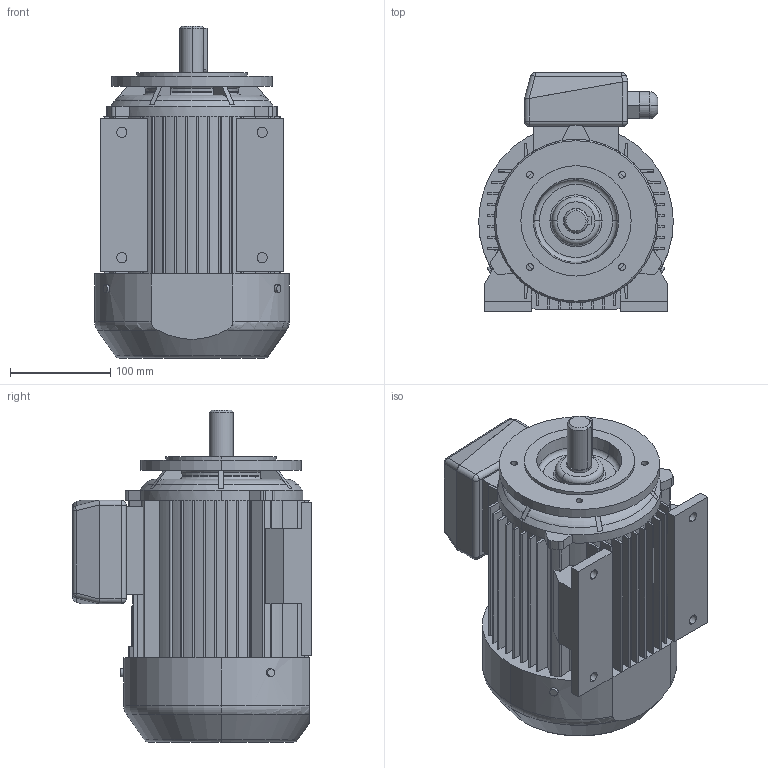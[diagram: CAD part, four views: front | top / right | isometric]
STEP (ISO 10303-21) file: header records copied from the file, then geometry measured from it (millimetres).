
FILE_DESCRIPTION (( 'STEP AP203' ), '1' );
FILE_NAME ('3SIEL90L2-B34-C1.STEP', '2016-02-08T11:56:16', ( 'Indukta' ), ( 'Celma Indukta S.A.' ), 'SwSTEP 2.0', 'SolidWorks 2003064', '' );
FILE_SCHEMA (( 'CONFIG_CONTROL_DESIGN' ));
Length unit declared in the file: millimetre
Products named in the file (1): 3SIEL90L2-B34-C1
Bounding box: 194 x 238 x 331 mm (x, y, z)
Volume: 7302676.6 mm3; surface area: 420456.4 mm2
Topology: 1 solids, 1 shells, 639 faces, 1738 edges, 1111 vertices
Faces by surface type: plane 331, cylinder 171, bspline 78, torus 37, cone 14, sphere 8
Entity records: 26818 total; most frequent: CARTESIAN_POINT 10917, ORIENTED_EDGE 3460, DIRECTION 3106, EDGE_CURVE 1730, VERTEX_POINT 1111, AXIS2_PLACEMENT_3D 1062, LINE 982, VECTOR 982
